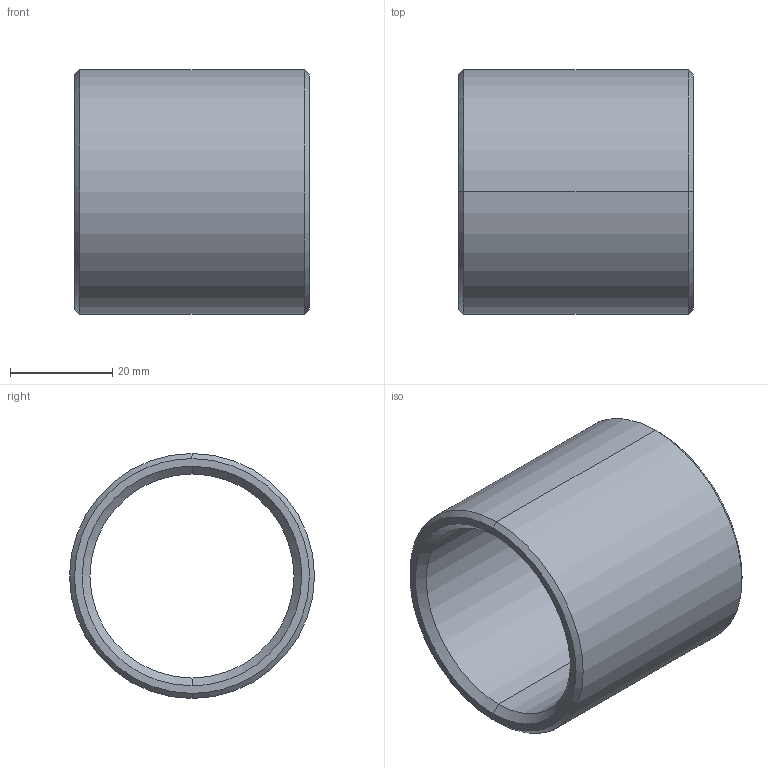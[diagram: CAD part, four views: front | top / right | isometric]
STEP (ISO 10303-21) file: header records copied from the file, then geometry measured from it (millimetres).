
FILE_DESCRIPTION(('CATIA V5 STEP Exchange'),'2;1');
FILE_NAME('C:\Users\Utente\Desktop\IO LAVORO\3D X SITO CF\X SITO\PLASTICA\352\352-40X46.stp','2021-04-14T14:55:59+00:00',('none'),('none'),'CATIA Version 5 Release 20 GA (IN-10)','CATIA V5 STEP AP203','none');
FILE_SCHEMA(('CONFIG_CONTROL_DESIGN'));
Length unit declared in the file: millimetre
Products named in the file (1): 352-40X46
Bounding box: 46 x 48 x 48 mm (x, y, z)
Volume: 25113.5 mm3; surface area: 13482.8 mm2
Topology: 1 solids, 1 shells, 14 faces, 44 edges, 32 vertices
Faces by surface type: cone 6, cylinder 4, plane 2, torus 2
Entity records: 634 total; most frequent: CARTESIAN_POINT 203, ORIENTED_EDGE 88, DIRECTION 64, EDGE_CURVE 44, AXIS2_PLACEMENT_3D 41, VERTEX_POINT 32, CIRCLE 26, EDGE_LOOP 16
